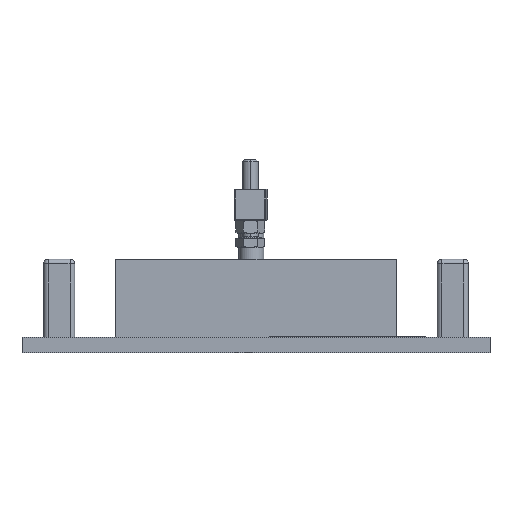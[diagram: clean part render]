
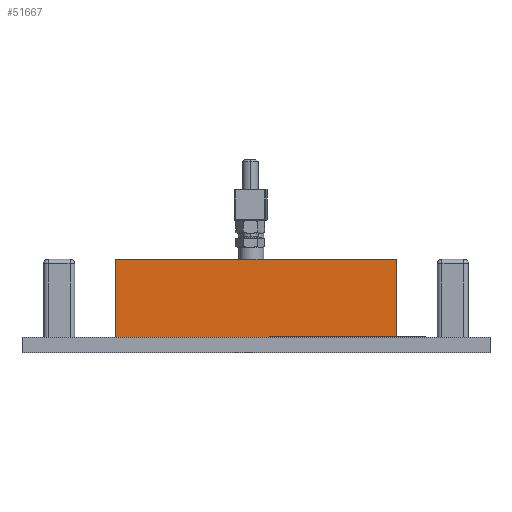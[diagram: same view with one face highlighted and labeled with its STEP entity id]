
A CAD part, front view. The second image highlights one B-rep face of the part: STEP entity #51667.
In plain terms, the highlighted planar face has unit normal (0, -1, 0).
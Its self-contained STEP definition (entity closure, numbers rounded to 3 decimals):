
#51659=AXIS2_PLACEMENT_3D('Plane Axis2P3D',#51656,#51657,#51658) ;
#260=CARTESIAN_POINT('Vertex',(-90.,-30.,10.)) ;
#274=CARTESIAN_POINT('Vertex',(90.,-30.,10.)) ;
#277=CARTESIAN_POINT('Line Origine',(0.,-30.,10.)) ;
#51491=CARTESIAN_POINT('Vertex',(-90.,-30.,60.)) ;
#51494=CARTESIAN_POINT('Line Origine',(0.,-30.,60.)) ;
#51498=CARTESIAN_POINT('Vertex',(90.,-30.,60.)) ;
#51627=CARTESIAN_POINT('Line Origine',(-90.,-30.,35.)) ;
#51644=CARTESIAN_POINT('Line Origine',(90.,-30.,35.)) ;
#51656=CARTESIAN_POINT('Axis2P3D Location',(90.,-30.,10.)) ;
#278=DIRECTION('Vector Direction',(-1.,0.,0.)) ;
#51495=DIRECTION('Vector Direction',(-1.,0.,0.)) ;
#51628=DIRECTION('Vector Direction',(0.,0.,1.)) ;
#51645=DIRECTION('Vector Direction',(0.,0.,1.)) ;
#51657=DIRECTION('Axis2P3D Direction',(0.,1.,-0.)) ;
#51658=DIRECTION('Axis2P3D XDirection',(-1.,0.,0.)) ;
#279=VECTOR('Line Direction',#278,1.) ;
#51496=VECTOR('Line Direction',#51495,1.) ;
#51629=VECTOR('Line Direction',#51628,1.) ;
#51646=VECTOR('Line Direction',#51645,1.) ;
#51662=ORIENTED_EDGE('',*,*,#51631,.F.) ;
#51663=ORIENTED_EDGE('',*,*,#281,.T.) ;
#51664=ORIENTED_EDGE('',*,*,#51648,.T.) ;
#51665=ORIENTED_EDGE('',*,*,#51500,.F.) ;
#51667=ADVANCED_FACE('\X2\96F64EF651E04F554F53\X0\',(#51666),#51660,.F.) ;
#281=EDGE_CURVE('',#261,#275,#280,.F.) ;
#51500=EDGE_CURVE('',#51492,#51499,#51497,.F.) ;
#51631=EDGE_CURVE('',#261,#51492,#51630,.T.) ;
#51648=EDGE_CURVE('',#275,#51499,#51647,.T.) ;
#51661=EDGE_LOOP('',(#51662,#51663,#51664,#51665)) ;
#51666=FACE_OUTER_BOUND('',#51661,.T.) ;
#280=LINE('Line',#277,#279) ;
#51497=LINE('Line',#51494,#51496) ;
#51630=LINE('Line',#51627,#51629) ;
#51647=LINE('Line',#51644,#51646) ;
#51660=PLANE('Plane',#51659) ;
#261=VERTEX_POINT('',#260) ;
#275=VERTEX_POINT('',#274) ;
#51492=VERTEX_POINT('',#51491) ;
#51499=VERTEX_POINT('',#51498) ;
